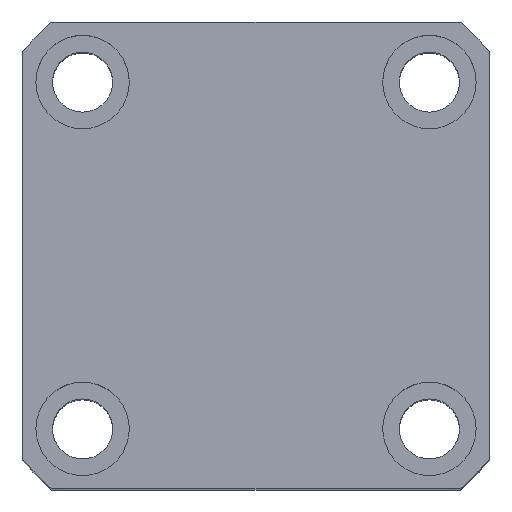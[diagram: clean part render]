
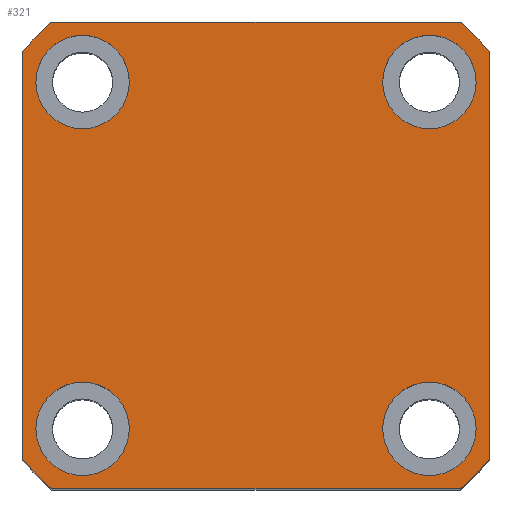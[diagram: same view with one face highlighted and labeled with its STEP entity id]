
A CAD part, top view. The second image highlights one B-rep face of the part: STEP entity #321.
In plain terms, the highlighted planar face has unit normal (0, 0, 1).
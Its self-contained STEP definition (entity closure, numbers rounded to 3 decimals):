
#103 = CIRCLE ( 'NONE', #351, 7. ) ;
#218 = DIRECTION ( 'NONE',  ( 1., 0., 0. ) ) ;
#225 = VERTEX_POINT ( 'NONE', #4540 ) ;
#228 = CARTESIAN_POINT ( 'NONE',  ( 26., -26., 95. ) ) ;
#262 = DIRECTION ( 'NONE',  ( 0., 0., 1. ) ) ;
#321 = ADVANCED_FACE ( 'NONE', ( #4278, #520, #5770, #2977, #10976 ), #3449, .T. ) ;
#347 = CARTESIAN_POINT ( 'NONE',  ( 0., 0., 95. ) ) ;
#351 = AXIS2_PLACEMENT_3D ( 'NONE', #228, #7586, #1281 ) ;
#389 = CIRCLE ( 'NONE', #3275, 7. ) ;
#520 = FACE_BOUND ( 'NONE', #11236, .T. ) ;
#659 = VERTEX_POINT ( 'NONE', #13526 ) ;
#669 = CARTESIAN_POINT ( 'NONE',  ( -35., 35., 95. ) ) ;
#787 = CARTESIAN_POINT ( 'NONE',  ( -30.615, 35., 95. ) ) ;
#843 = DIRECTION ( 'NONE',  ( 1., 0., 0. ) ) ;
#877 = CIRCLE ( 'NONE', #2309, 7. ) ;
#985 = DIRECTION ( 'NONE',  ( 0., -1., 0. ) ) ;
#1027 = ORIENTED_EDGE ( 'NONE', *, *, #1362, .T. ) ;
#1107 = EDGE_CURVE ( 'NONE', #9109, #659, #12871, .T. ) ;
#1141 = CARTESIAN_POINT ( 'NONE',  ( -33., -26., 95. ) ) ;
#1178 = CIRCLE ( 'NONE', #3202, 7. ) ;
#1184 = ORIENTED_EDGE ( 'NONE', *, *, #5967, .T. ) ;
#1281 = DIRECTION ( 'NONE',  ( 1., 0., 0. ) ) ;
#1352 = LINE ( 'NONE', #9693, #1677 ) ;
#1362 = EDGE_CURVE ( 'NONE', #7630, #5719, #1352, .T. ) ;
#1410 = VERTEX_POINT ( 'NONE', #4258 ) ;
#1476 = DIRECTION ( 'NONE',  ( 0., 0., 1. ) ) ;
#1604 = CARTESIAN_POINT ( 'NONE',  ( 0., 0., 95. ) ) ;
#1677 = VECTOR ( 'NONE', #12578, 1000. ) ;
#1953 = EDGE_CURVE ( 'NONE', #6937, #11768, #1178, .T. ) ;
#2110 = AXIS2_PLACEMENT_3D ( 'NONE', #13372, #7148, #843 ) ;
#2170 = ORIENTED_EDGE ( 'NONE', *, *, #11653, .T. ) ;
#2172 = VERTEX_POINT ( 'NONE', #7802 ) ;
#2265 = DIRECTION ( 'NONE',  ( 0., 0., 1. ) ) ;
#2309 = AXIS2_PLACEMENT_3D ( 'NONE', #5880, #13176, #6946 ) ;
#2523 = VECTOR ( 'NONE', #12887, 1000. ) ;
#2658 = DIRECTION ( 'NONE',  ( 1., 0., 0. ) ) ;
#2689 = CARTESIAN_POINT ( 'NONE',  ( -19., -26., 95. ) ) ;
#2787 = CARTESIAN_POINT ( 'NONE',  ( 33., 26., 95. ) ) ;
#2836 = CIRCLE ( 'NONE', #2110, 7. ) ;
#2977 = FACE_BOUND ( 'NONE', #7917, .T. ) ;
#3202 = AXIS2_PLACEMENT_3D ( 'NONE', #5489, #5441, #5393 ) ;
#3275 = AXIS2_PLACEMENT_3D ( 'NONE', #11088, #4857, #12147 ) ;
#3310 = ORIENTED_EDGE ( 'NONE', *, *, #11212, .F. ) ;
#3396 = VERTEX_POINT ( 'NONE', #1141 ) ;
#3449 = PLANE ( 'NONE',  #6047 ) ;
#3624 = AXIS2_PLACEMENT_3D ( 'NONE', #4042, #11351, #5095 ) ;
#3718 = VERTEX_POINT ( 'NONE', #2689 ) ;
#4042 = CARTESIAN_POINT ( 'NONE',  ( -26., 26., 95. ) ) ;
#4209 = CARTESIAN_POINT ( 'NONE',  ( 35., 30.615, 95. ) ) ;
#4251 = CARTESIAN_POINT ( 'NONE',  ( 35., -30.615, 95. ) ) ;
#4258 = CARTESIAN_POINT ( 'NONE',  ( -35., -30.615, 95. ) ) ;
#4278 = FACE_BOUND ( 'NONE', #6580, .T. ) ;
#4377 = DIRECTION ( 'NONE',  ( 0., 0., 1. ) ) ;
#4540 = CARTESIAN_POINT ( 'NONE',  ( -35., 30.615, 95. ) ) ;
#4635 = ORIENTED_EDGE ( 'NONE', *, *, #12674, .T. ) ;
#4847 = EDGE_CURVE ( 'NONE', #1410, #13353, #6467, .T. ) ;
#4857 = DIRECTION ( 'NONE',  ( 0., 0., 1. ) ) ;
#4978 = ORIENTED_EDGE ( 'NONE', *, *, #13266, .F. ) ;
#5095 = DIRECTION ( 'NONE',  ( 1., 0., 0. ) ) ;
#5176 = AXIS2_PLACEMENT_3D ( 'NONE', #6170, #13448, #7234 ) ;
#5393 = DIRECTION ( 'NONE',  ( 1., 0., 0. ) ) ;
#5441 = DIRECTION ( 'NONE',  ( 0., 0., 1. ) ) ;
#5489 = CARTESIAN_POINT ( 'NONE',  ( 26., 26., 95. ) ) ;
#5622 = CARTESIAN_POINT ( 'NONE',  ( 30.615, 35., 95. ) ) ;
#5639 = ORIENTED_EDGE ( 'NONE', *, *, #10061, .F. ) ;
#5681 = VERTEX_POINT ( 'NONE', #11455 ) ;
#5719 = VERTEX_POINT ( 'NONE', #4209 ) ;
#5770 = FACE_BOUND ( 'NONE', #9697, .T. ) ;
#5880 = CARTESIAN_POINT ( 'NONE',  ( 26., 26., 95. ) ) ;
#5952 = ORIENTED_EDGE ( 'NONE', *, *, #9162, .T. ) ;
#5967 = EDGE_CURVE ( 'NONE', #13353, #8767, #10233, .T. ) ;
#6047 = AXIS2_PLACEMENT_3D ( 'NONE', #347, #262, #218 ) ;
#6170 = CARTESIAN_POINT ( 'NONE',  ( 0., 0., 95. ) ) ;
#6180 = EDGE_CURVE ( 'NONE', #12306, #11774, #9594, .T. ) ;
#6181 = CARTESIAN_POINT ( 'NONE',  ( 19., 26., 95. ) ) ;
#6220 = CARTESIAN_POINT ( 'NONE',  ( -35., 35., 95. ) ) ;
#6243 = AXIS2_PLACEMENT_3D ( 'NONE', #8564, #2265, #9622 ) ;
#6439 = ORIENTED_EDGE ( 'NONE', *, *, #8116, .T. ) ;
#6441 = EDGE_LOOP ( 'NONE', ( #1027, #5952, #10824, #2170, #4635, #9897, #1184, #6439 ) ) ;
#6447 = CIRCLE ( 'NONE', #11208, 46.5 ) ;
#6467 = CIRCLE ( 'NONE', #5176, 46.5 ) ;
#6580 = EDGE_LOOP ( 'NONE', ( #5639, #10841 ) ) ;
#6937 = VERTEX_POINT ( 'NONE', #6181 ) ;
#6946 = DIRECTION ( 'NONE',  ( 1., 0., 0. ) ) ;
#6951 = ORIENTED_EDGE ( 'NONE', *, *, #8511, .F. ) ;
#7148 = DIRECTION ( 'NONE',  ( 0., 0., 1. ) ) ;
#7234 = DIRECTION ( 'NONE',  ( 1., 0., 0. ) ) ;
#7270 = EDGE_CURVE ( 'NONE', #11768, #6937, #877, .T. ) ;
#7291 = ORIENTED_EDGE ( 'NONE', *, *, #1107, .F. ) ;
#7367 = CARTESIAN_POINT ( 'NONE',  ( 30.615, -35., 95. ) ) ;
#7586 = DIRECTION ( 'NONE',  ( 0., 0., 1. ) ) ;
#7630 = VERTEX_POINT ( 'NONE', #4251 ) ;
#7680 = CIRCLE ( 'NONE', #6243, 7. ) ;
#7786 = CARTESIAN_POINT ( 'NONE',  ( 0., 0., 95. ) ) ;
#7802 = CARTESIAN_POINT ( 'NONE',  ( 33., -26., 95. ) ) ;
#7917 = EDGE_LOOP ( 'NONE', ( #7291, #6951 ) ) ;
#8030 = DIRECTION ( 'NONE',  ( -1., 0., 0. ) ) ;
#8116 = EDGE_CURVE ( 'NONE', #8767, #7630, #9942, .T. ) ;
#8146 = AXIS2_PLACEMENT_3D ( 'NONE', #10637, #4377, #11684 ) ;
#8323 = AXIS2_PLACEMENT_3D ( 'NONE', #7786, #1476, #8837 ) ;
#8511 = EDGE_CURVE ( 'NONE', #659, #9109, #11700, .T. ) ;
#8564 = CARTESIAN_POINT ( 'NONE',  ( -26., -26., 95. ) ) ;
#8599 = ORIENTED_EDGE ( 'NONE', *, *, #7270, .F. ) ;
#8685 = CARTESIAN_POINT ( 'NONE',  ( -30.615, -35., 95. ) ) ;
#8767 = VERTEX_POINT ( 'NONE', #7367 ) ;
#8837 = DIRECTION ( 'NONE',  ( 1., 0., 0. ) ) ;
#8961 = DIRECTION ( 'NONE',  ( 0., 0., 1. ) ) ;
#9026 = DIRECTION ( 'NONE',  ( 1., 0., 0. ) ) ;
#9070 = DIRECTION ( 'NONE',  ( 0., 0., 1. ) ) ;
#9109 = VERTEX_POINT ( 'NONE', #12864 ) ;
#9126 = CARTESIAN_POINT ( 'NONE',  ( -26., 26., 95. ) ) ;
#9162 = EDGE_CURVE ( 'NONE', #5719, #12306, #13331, .T. ) ;
#9276 = VECTOR ( 'NONE', #8030, 1000. ) ;
#9594 = LINE ( 'NONE', #669, #9276 ) ;
#9622 = DIRECTION ( 'NONE',  ( 1., 0., 0. ) ) ;
#9693 = CARTESIAN_POINT ( 'NONE',  ( 35., 35., 95. ) ) ;
#9697 = EDGE_LOOP ( 'NONE', ( #8599, #13454 ) ) ;
#9858 = CARTESIAN_POINT ( 'NONE',  ( -35., -35., 95. ) ) ;
#9897 = ORIENTED_EDGE ( 'NONE', *, *, #4847, .T. ) ;
#9942 = CIRCLE ( 'NONE', #8146, 46.5 ) ;
#10061 = EDGE_CURVE ( 'NONE', #3718, #3396, #389, .T. ) ;
#10121 = VECTOR ( 'NONE', #985, 1000. ) ;
#10233 = LINE ( 'NONE', #9858, #2523 ) ;
#10435 = LINE ( 'NONE', #6220, #10121 ) ;
#10637 = CARTESIAN_POINT ( 'NONE',  ( 0., 0., 95. ) ) ;
#10824 = ORIENTED_EDGE ( 'NONE', *, *, #6180, .T. ) ;
#10841 = ORIENTED_EDGE ( 'NONE', *, *, #12843, .F. ) ;
#10976 = FACE_OUTER_BOUND ( 'NONE', #6441, .T. ) ;
#11088 = CARTESIAN_POINT ( 'NONE',  ( -26., -26., 95. ) ) ;
#11208 = AXIS2_PLACEMENT_3D ( 'NONE', #1604, #8961, #2658 ) ;
#11212 = EDGE_CURVE ( 'NONE', #5681, #2172, #2836, .T. ) ;
#11236 = EDGE_LOOP ( 'NONE', ( #4978, #3310 ) ) ;
#11351 = DIRECTION ( 'NONE',  ( 0., 0., 1. ) ) ;
#11455 = CARTESIAN_POINT ( 'NONE',  ( 19., -26., 95. ) ) ;
#11653 = EDGE_CURVE ( 'NONE', #11774, #225, #6447, .T. ) ;
#11684 = DIRECTION ( 'NONE',  ( 1., 0., 0. ) ) ;
#11700 = CIRCLE ( 'NONE', #3624, 7. ) ;
#11768 = VERTEX_POINT ( 'NONE', #2787 ) ;
#11774 = VERTEX_POINT ( 'NONE', #787 ) ;
#12147 = DIRECTION ( 'NONE',  ( 1., 0., 0. ) ) ;
#12306 = VERTEX_POINT ( 'NONE', #5622 ) ;
#12396 = AXIS2_PLACEMENT_3D ( 'NONE', #9126, #9070, #9026 ) ;
#12578 = DIRECTION ( 'NONE',  ( 0., 1., 0. ) ) ;
#12674 = EDGE_CURVE ( 'NONE', #225, #1410, #10435, .T. ) ;
#12843 = EDGE_CURVE ( 'NONE', #3396, #3718, #7680, .T. ) ;
#12864 = CARTESIAN_POINT ( 'NONE',  ( -19., 26., 95. ) ) ;
#12871 = CIRCLE ( 'NONE', #12396, 7. ) ;
#12887 = DIRECTION ( 'NONE',  ( 1., 0., 0. ) ) ;
#13176 = DIRECTION ( 'NONE',  ( 0., 0., 1. ) ) ;
#13266 = EDGE_CURVE ( 'NONE', #2172, #5681, #103, .T. ) ;
#13331 = CIRCLE ( 'NONE', #8323, 46.5 ) ;
#13353 = VERTEX_POINT ( 'NONE', #8685 ) ;
#13372 = CARTESIAN_POINT ( 'NONE',  ( 26., -26., 95. ) ) ;
#13448 = DIRECTION ( 'NONE',  ( 0., 0., 1. ) ) ;
#13454 = ORIENTED_EDGE ( 'NONE', *, *, #1953, .F. ) ;
#13526 = CARTESIAN_POINT ( 'NONE',  ( -33., 26., 95. ) ) ;
